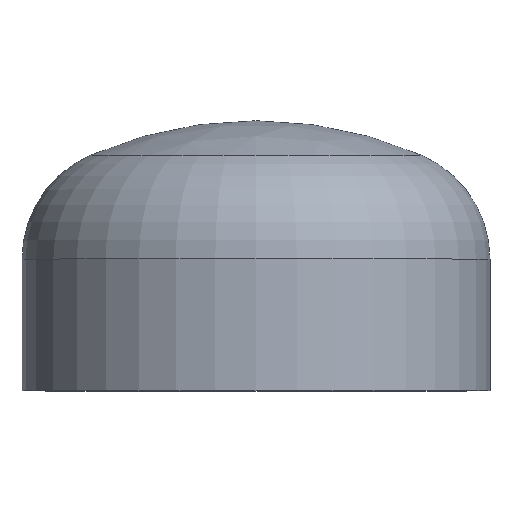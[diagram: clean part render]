
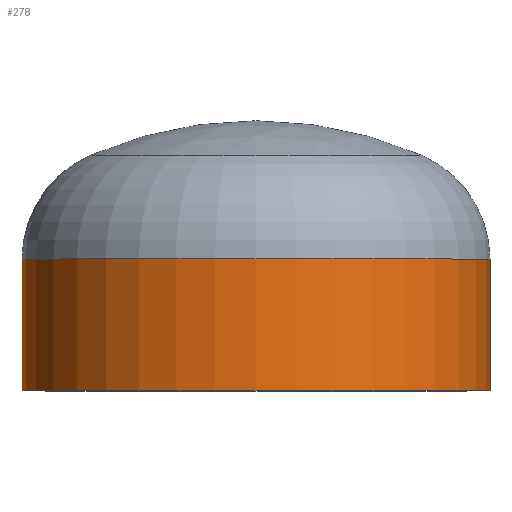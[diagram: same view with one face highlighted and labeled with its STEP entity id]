
A CAD part, top view. The second image highlights one B-rep face of the part: STEP entity #278.
In plain terms, the highlighted cylindrical face has radius 177.8 mm (diameter 355.6 mm), a partial arc.
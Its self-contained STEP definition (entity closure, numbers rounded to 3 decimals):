
#16 = DIRECTION ( 'NONE',  ( 1., 0., 0. ) ) ;
#19 = VECTOR ( 'NONE', #371, 1000. ) ;
#23 = VERTEX_POINT ( 'NONE', #274 ) ;
#24 = AXIS2_PLACEMENT_3D ( 'NONE', #262, #268, #16 ) ;
#46 = AXIS2_PLACEMENT_3D ( 'NONE', #347, #375, #376 ) ;
#48 = CARTESIAN_POINT ( 'NONE',  ( -177.8, 100., 0. ) ) ;
#56 = AXIS2_PLACEMENT_3D ( 'NONE', #324, #323, #320 ) ;
#59 = EDGE_CURVE ( 'NONE', #308, #228, #206, .T. ) ;
#61 = EDGE_CURVE ( 'NONE', #23, #228, #233, .T. ) ;
#67 = EDGE_CURVE ( 'NONE', #136, #308, #290, .T. ) ;
#100 = FACE_OUTER_BOUND ( 'NONE', #322, .T. ) ;
#136 = VERTEX_POINT ( 'NONE', #301 ) ;
#144 = CARTESIAN_POINT ( 'NONE',  ( -177.8, 0., 0. ) ) ;
#161 = ORIENTED_EDGE ( 'NONE', *, *, #386, .F. ) ;
#205 = ORIENTED_EDGE ( 'NONE', *, *, #67, .T. ) ;
#206 = LINE ( 'NONE', #234, #19 ) ;
#211 = ORIENTED_EDGE ( 'NONE', *, *, #59, .T. ) ;
#226 = VECTOR ( 'NONE', #275, 1000. ) ;
#228 = VERTEX_POINT ( 'NONE', #144 ) ;
#233 = CIRCLE ( 'NONE', #56, 177.8 ) ;
#234 = CARTESIAN_POINT ( 'NONE',  ( -177.8, 0., 0. ) ) ;
#258 = CARTESIAN_POINT ( 'NONE',  ( 177.8, 0., 0. ) ) ;
#262 = CARTESIAN_POINT ( 'NONE',  ( 0., 0., 0. ) ) ;
#263 = CYLINDRICAL_SURFACE ( 'NONE', #24, 177.8 ) ;
#268 = DIRECTION ( 'NONE',  ( 0., -1., 0. ) ) ;
#274 = CARTESIAN_POINT ( 'NONE',  ( 177.8, 0., 0. ) ) ;
#275 = DIRECTION ( 'NONE',  ( 0., -1., 0. ) ) ;
#278 = ADVANCED_FACE ( 'NONE', ( #100 ), #263, .T. ) ;
#290 = CIRCLE ( 'NONE', #46, 177.8 ) ;
#301 = CARTESIAN_POINT ( 'NONE',  ( 177.8, 100., 0. ) ) ;
#308 = VERTEX_POINT ( 'NONE', #48 ) ;
#320 = DIRECTION ( 'NONE',  ( 1., 0., 0. ) ) ;
#322 = EDGE_LOOP ( 'NONE', ( #205, #211, #389, #161 ) ) ;
#323 = DIRECTION ( 'NONE',  ( 0., -1., 0. ) ) ;
#324 = CARTESIAN_POINT ( 'NONE',  ( 0., 0., 0. ) ) ;
#347 = CARTESIAN_POINT ( 'NONE',  ( 0., 100., 0. ) ) ;
#366 = LINE ( 'NONE', #258, #226 ) ;
#371 = DIRECTION ( 'NONE',  ( 0., -1., 0. ) ) ;
#375 = DIRECTION ( 'NONE',  ( 0., -1., 0. ) ) ;
#376 = DIRECTION ( 'NONE',  ( 1., 0., 0. ) ) ;
#386 = EDGE_CURVE ( 'NONE', #136, #23, #366, .T. ) ;
#389 = ORIENTED_EDGE ( 'NONE', *, *, #61, .F. ) ;
